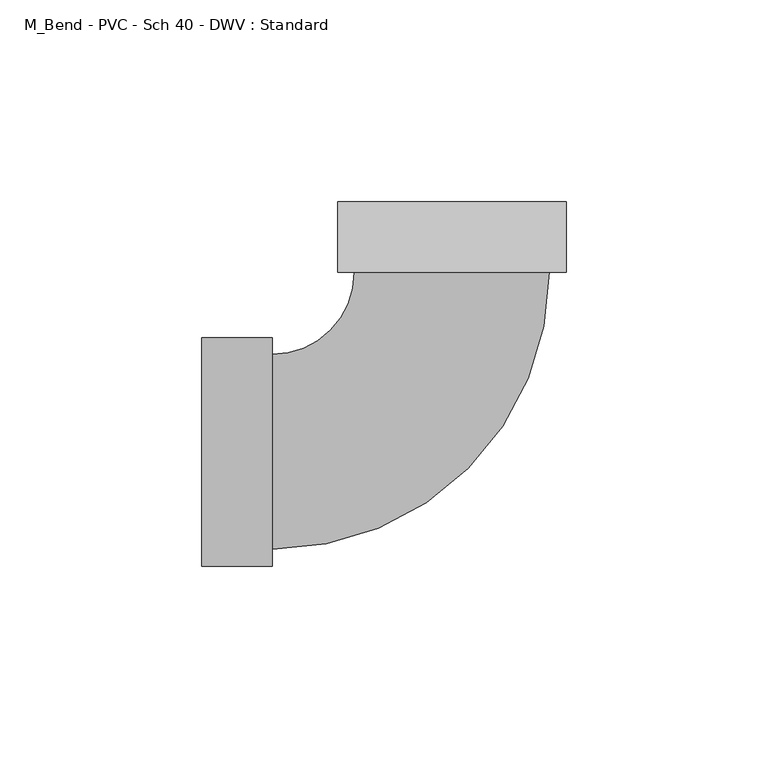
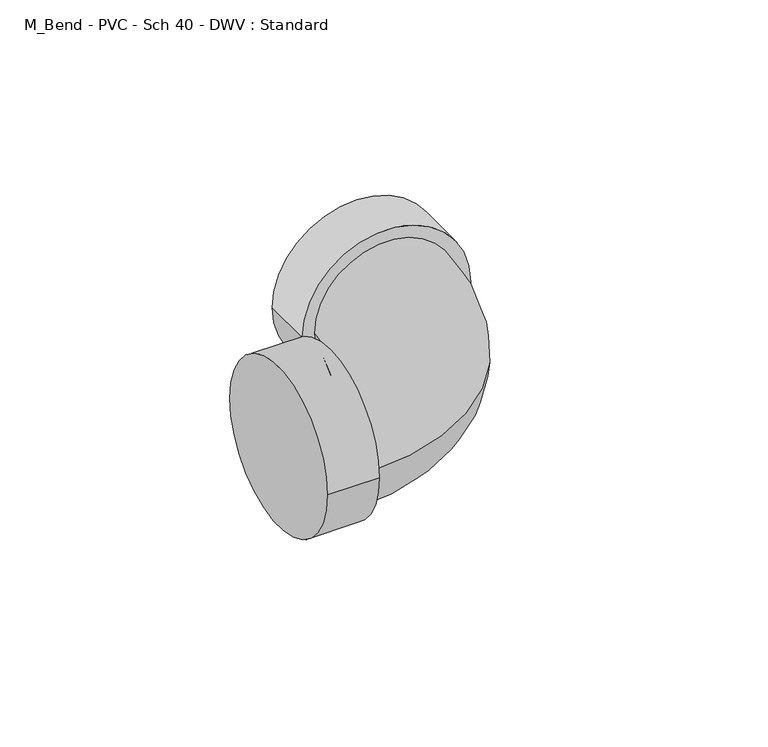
"""IFC4 building model written with IfcOpenShell, lengths in millimetres: pipe fitting geometry, M_Bend - PVC - Sch 40 - DWV : Standard."""

from ifc_helpers import new_model, si_unit, point, frame, origin, place, context, project, spatial, circle_curve, ellipse_curve, trimmed, source, transform, mapped, element, save
from ifc_brep_helpers import plane_surface, cylinder_surface, revolved_surface, advanced_brep


def m_bend_pvc_sch_40_dwv_standard_738aab8b(model_context):
    return source(origin(), model_context, "Body", "AdvancedBrep", [
        advanced_brep(
        [(-61.8998, -28.2829, 0.0), (-61.8998, 28.2829, 0.0), (-44.45, -28.2829, 0.0), (-44.45, 28.2829, 0.0), (-44.45, -24.13, 0.0), (-44.45, 24.13, 0.0), (-24.13, 44.45, 0.0), (24.13, 44.45, 0.0), (28.2829, 44.45, 0.0), (-28.2829, 44.45, 0.0), (28.2829, 61.8998, 0.0), (-28.2829, 61.8998, 0.0)],
        [
            (0, 1, circle_curve(frame((-61.8998, 0.0, 0.0), z_axis=(-1.0, 0.0, 0.0), x_axis=(0.0, 1.0, 0.0)), 28.2829)),
            (1, 0, circle_curve(frame((-61.8998, 0.0, 0.0), z_axis=(-1.0, 0.0, 0.0), x_axis=(0.0, 1.0, 0.0)), 28.2829)),
            (2, 3, circle_curve(frame((-44.45, 0.0, 0.0), z_axis=(1.0, 0.0, 0.0), x_axis=(0.0, 1.0, 0.0)), 28.2829)),
            (3, 2, circle_curve(frame((-44.45, 0.0, 0.0), z_axis=(1.0, 0.0, 0.0), x_axis=(0.0, 1.0, 0.0)), 28.2829)),
            (4, 5, circle_curve(frame((-44.45, 0.0, 0.0), z_axis=(-1.0, 0.0, 0.0), x_axis=(0.0, 1.0, 0.0)), 24.13)),
            (5, 4, circle_curve(frame((-44.45, 0.0, 0.0), z_axis=(-1.0, 0.0, 0.0), x_axis=(0.0, 1.0, 0.0)), 24.13)),
            (0, 2),
            (3, 1),
            (6, 5, circle_curve(frame((-44.45, 44.45, 0.0), z_axis=(0.0, 0.0, -1.0), x_axis=(0.0, -1.0, 0.0)), 20.32)),
            (4, 7, circle_curve(frame((-44.45, 44.45, 0.0), z_axis=(0.0, 0.0, 1.0), x_axis=(0.0, -1.0, 0.0)), 68.58)),
            (7, 6, circle_curve(frame((0.0, 44.45, 0.0), z_axis=(0.0, -1.0, 0.0), x_axis=(-1.0, 0.0, 0.0)), 24.13)),
            (6, 7, circle_curve(frame((0.0, 44.45, 0.0), z_axis=(0.0, -1.0, 0.0), x_axis=(-1.0, 0.0, 0.0)), 24.13)),
            (8, 9, circle_curve(frame((0.0, 44.45, 0.0), z_axis=(0.0, -1.0, 0.0), x_axis=(-1.0, 0.0, 0.0)), 28.2829)),
            (9, 8, circle_curve(frame((0.0, 44.45, 0.0), z_axis=(0.0, -1.0, 0.0), x_axis=(-1.0, 0.0, 0.0)), 28.2829)),
            (10, 11, circle_curve(frame((0.0, 61.8998, 0.0), z_axis=(0.0, 1.0, 0.0), x_axis=(-1.0, 0.0, 0.0)), 28.2829)),
            (11, 10, circle_curve(frame((0.0, 61.8998, 0.0), z_axis=(0.0, 1.0, 0.0), x_axis=(-1.0, 0.0, 0.0)), 28.2829)),
            (8, 10),
            (11, 9),
        ],
        [
            plane_surface(frame((-61.8998, 0.0, 0.0), z_axis=(-1.0, 0.0, 0.0), x_axis=(0.0, 0.0, 1.0))),
            plane_surface(frame((-44.45, 0.0, 0.0), z_axis=(1.0, 0.0, 0.0), x_axis=(0.0, 0.0, 1.0))),
            cylinder_surface(frame((-61.8998, 0.0, 0.0), z_axis=(-1.0, 0.0, 0.0), x_axis=(0.0, 1.0, 0.0)), 28.2829),
            revolved_surface(trimmed(ellipse_curve(frame((-44.45, 0.0, 0.0), z_axis=(-1.0, 0.0, 0.0), x_axis=(0.0, 1.0, 0.0)), 24.13, 24.13), [point((-44.45, -24.13, 0.0))], [point((-44.45, 24.13, 0.0))], True, "CARTESIAN"), (-44.45, 44.45, 0.0), (0.0, 0.0, 1.0)),
            revolved_surface(trimmed(ellipse_curve(frame((-44.45, 0.0, 0.0), z_axis=(-1.0, 0.0, 0.0), x_axis=(0.0, 1.0, 0.0)), 24.13, 24.13), [point((-44.45, 24.13, 0.0))], [point((-44.45, -24.13, 0.0))], True, "CARTESIAN"), (-44.45, 44.45, 0.0), (0.0, 0.0, 1.0)),
            plane_surface(frame((0.0, 44.45, 0.0), z_axis=(0.0, -1.0, 0.0), x_axis=(0.0, 0.0, 1.0))),
            plane_surface(frame((0.0, 61.8998, 0.0), z_axis=(0.0, 1.0, 0.0), x_axis=(0.0, 0.0, 1.0))),
            cylinder_surface(frame((0.0, 44.45, 0.0), z_axis=(0.0, -1.0, 0.0), x_axis=(-1.0, 0.0, 0.0)), 28.2829),
        ],
        [
            (0, [[1, 2]]),
            (1, [[3, 4], [5, 6]]),
            (2, [[-1, 7, -4, 8]]),
            (2, [[-2, -8, -3, -7]]),
            (3, [[9, -5, 10, 11]]),
            (4, [[-9, 12, -10, -6]]),
            (5, [[13, 14], [-11, -12]]),
            (6, [[15, 16]]),
            (7, [[-13, 17, -16, 18]]),
            (7, [[-14, -18, -15, -17]]),
        ],
    ),
    ])


if __name__ == "__main__":
    model = new_model("IFC4")
    model_context = context("Model", 3, world=origin())
    ifc_project = project(units=[si_unit("LENGTHUNIT", "METRE", prefix="MILLI")], contexts=[model_context])
    site = spatial("IfcSite", under=ifc_project)
    building = spatial("IfcBuilding", under=site)
    placement = place(None, origin())
    m_bend_pvc_sch_40_dwv_standard_shape = m_bend_pvc_sch_40_dwv_standard_738aab8b(model_context)
    element("IfcPipeFitting", 1, ObjectType="M_Bend - PVC - Sch 40 - DWV : Standard", at=placement, inside=building, context=model_context, shape_type="MappedRepresentation", body=[
        mapped(m_bend_pvc_sch_40_dwv_standard_shape, transform((0.0, 0.0, 0.0), x_axis=(1.0, 0.0, 0.0), y_axis=(0.0, 1.0, 0.0), z_axis=(0.0, 0.0, 1.0))),
    ])
    save(model, "model.ifc")
